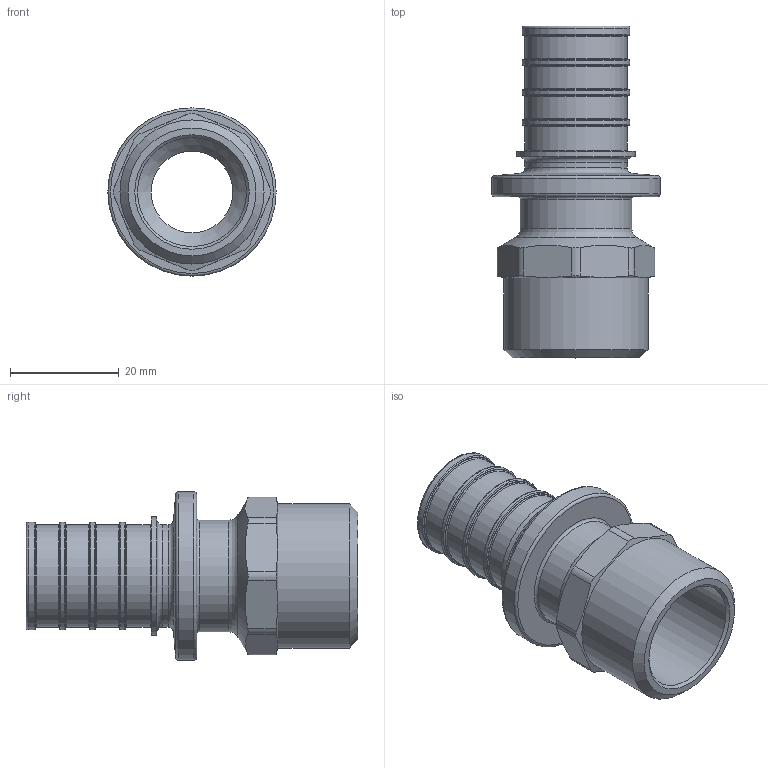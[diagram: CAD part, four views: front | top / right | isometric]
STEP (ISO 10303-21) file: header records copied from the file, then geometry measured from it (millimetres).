
FILE_DESCRIPTION(('STEP AP203'), '1');
FILE_NAME('ﾂﾐ.753137.009 - VTm.401.G.002505 ﾔ頸. 浯葢. G 3-4', '2024-01-23T13:00:17', ('IT'), ('VESTA'), 'C3D Converter', 'C3D Toolkit', '');
FILE_SCHEMA(('CONFIG_CONTROL_DESIGN'));
Length unit declared in the file: millimetre
Products named in the file (1): ВР.753137.009
Bounding box: 30.9 x 60.9 x 30.9 mm (x, y, z)
Volume: 12069.4 mm3; surface area: 9109.9 mm2
Topology: 1 solids, 1 shells, 72 faces, 149 edges, 89 vertices
Faces by surface type: cylinder 23, torus 22, plane 20, cone 7
Full cylindrical faces by diameter (mm): 15 x1, 18.8 x5, 19.8 x4, 20 x1, 20.4 x1, 21.8 x1, 26.441 x1, 30.9 x1
Entity records: 2867 total; most frequent: CARTESIAN_POINT 1507, DIRECTION 272, ORIENTED_EDGE 210, AXIS2_PLACEMENT_3D 128, EDGE_LOOP 128, EDGE_CURVE 105, VERTEX_POINT 89, FACE_OUTER_BOUND 86
